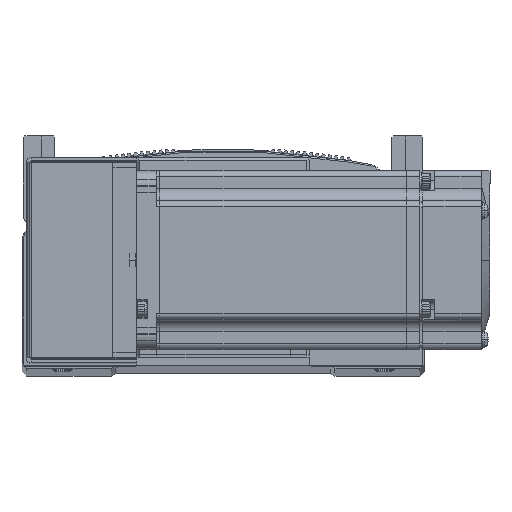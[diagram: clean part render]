
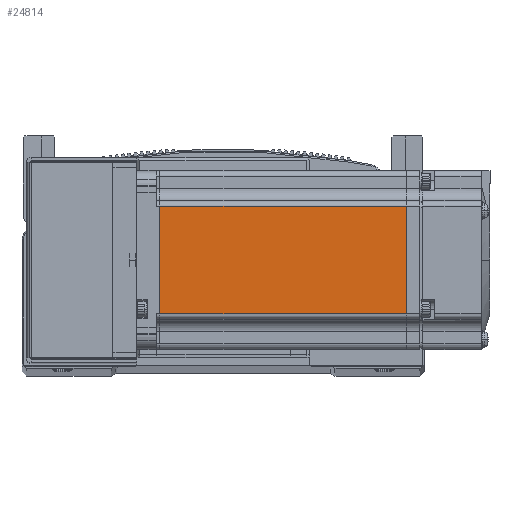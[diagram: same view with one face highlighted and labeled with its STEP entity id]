
A CAD part, top view. The second image highlights one B-rep face of the part: STEP entity #24814.
In plain terms, the highlighted planar face has unit normal (0, 0, 1) as drawn and (0, 0, -1) by its records, which use the part's own axes.
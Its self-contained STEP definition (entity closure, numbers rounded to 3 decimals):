
#482 = CARTESIAN_POINT ( 'NONE',  ( -6.5, -18., -30. ) ) ;
#486 = DIRECTION ( 'NONE',  ( -1., 0., 0. ) ) ;
#10690 = LINE ( 'NONE', #482, #10793 ) ;
#10793 = VECTOR ( 'NONE', #486, 1000. ) ;
#14298 = CARTESIAN_POINT ( 'NONE',  ( -7.75, -18., -30. ) ) ;
#14300 = CARTESIAN_POINT ( 'NONE',  ( -90.45, 18., -30. ) ) ;
#14310 = CARTESIAN_POINT ( 'NONE',  ( -90.45, -18., -30. ) ) ;
#14403 = CARTESIAN_POINT ( 'NONE',  ( -7.75, 18., -30. ) ) ;
#15900 = VECTOR ( 'NONE', #84861, 1000. ) ;
#15908 = LINE ( 'NONE', #84104, #15915 ) ;
#15915 = VECTOR ( 'NONE', #84105, 1000. ) ;
#15917 = LINE ( 'NONE', #84125, #15979 ) ;
#15937 = LINE ( 'NONE', #84844, #15900 ) ;
#15979 = VECTOR ( 'NONE', #84101, 1000. ) ;
#19465 = AXIS2_PLACEMENT_3D ( 'NONE', #49649, #49647, #49667 ) ;
#24814 = ADVANCED_FACE ( 'NONE', ( #34530 ), #49639, .T. ) ;
#34530 = FACE_OUTER_BOUND ( 'NONE', #35970, .T. ) ;
#35970 = EDGE_LOOP ( 'NONE', ( #82180, #82167, #82215, #82154 ) ) ;
#49639 = PLANE ( 'NONE',  #19465 ) ;
#49647 = DIRECTION ( 'NONE',  ( 0., 0., -1. ) ) ;
#49649 = CARTESIAN_POINT ( 'NONE',  ( -6.5, 25., -30. ) ) ;
#49667 = DIRECTION ( 'NONE',  ( -1., 0., 0. ) ) ;
#50541 = VERTEX_POINT ( 'NONE', #14310 ) ;
#50563 = VERTEX_POINT ( 'NONE', #14298 ) ;
#50564 = VERTEX_POINT ( 'NONE', #14300 ) ;
#50578 = VERTEX_POINT ( 'NONE', #14403 ) ;
#65758 = EDGE_CURVE ( 'NONE', #50541, #50564, #15937, .T. ) ;
#65777 = EDGE_CURVE ( 'NONE', #50578, #50563, #15908, .T. ) ;
#65779 = EDGE_CURVE ( 'NONE', #50564, #50578, #15917, .T. ) ;
#76628 = EDGE_CURVE ( 'NONE', #50563, #50541, #10690, .T. ) ;
#82154 = ORIENTED_EDGE ( 'NONE', *, *, #65779, .T. ) ;
#82167 = ORIENTED_EDGE ( 'NONE', *, *, #76628, .T. ) ;
#82180 = ORIENTED_EDGE ( 'NONE', *, *, #65777, .T. ) ;
#82215 = ORIENTED_EDGE ( 'NONE', *, *, #65758, .T. ) ;
#84101 = DIRECTION ( 'NONE',  ( 1., 0., 0. ) ) ;
#84104 = CARTESIAN_POINT ( 'NONE',  ( -7.75, 25., -30. ) ) ;
#84105 = DIRECTION ( 'NONE',  ( 0., -1., 0. ) ) ;
#84125 = CARTESIAN_POINT ( 'NONE',  ( -6.5, 18., -30. ) ) ;
#84844 = CARTESIAN_POINT ( 'NONE',  ( -90.45, 25., -30. ) ) ;
#84861 = DIRECTION ( 'NONE',  ( 0., 1., 0. ) ) ;
